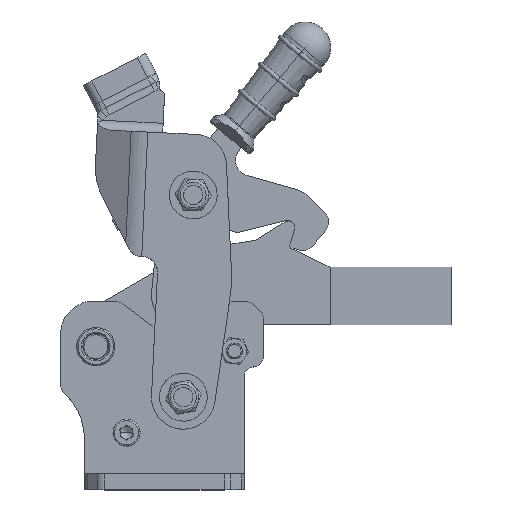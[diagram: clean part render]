
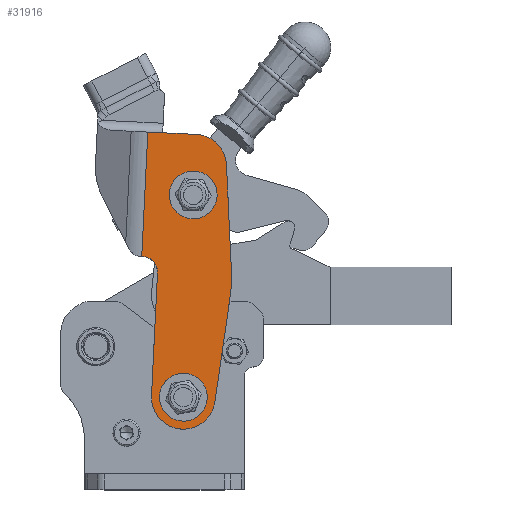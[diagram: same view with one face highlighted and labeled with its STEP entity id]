
A CAD part, top view. The second image highlights one B-rep face of the part: STEP entity #31916.
In plain terms, the highlighted planar face has unit normal (0, 0, 1) as drawn and (0, 0, -1) by its records, which use the part's own axes.
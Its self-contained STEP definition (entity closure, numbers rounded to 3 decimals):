
#133 = LINE ( 'NONE', #20008, #29977 ) ;
#334 = ORIENTED_EDGE ( 'NONE', *, *, #49213, .F. ) ;
#875 = AXIS2_PLACEMENT_3D ( 'NONE', #28266, #35490, #15289 ) ;
#1294 = CIRCLE ( 'NONE', #30941, 10. ) ;
#1332 = CARTESIAN_POINT ( 'NONE',  ( 0., 82.5, -17. ) ) ;
#1557 = AXIS2_PLACEMENT_3D ( 'NONE', #32900, #32361, #40109 ) ;
#1812 = VECTOR ( 'NONE', #11949, 1000. ) ;
#2169 = DIRECTION ( 'NONE',  ( 1., 0., 0. ) ) ;
#2607 = DIRECTION ( 'NONE',  ( 1., 0., 0. ) ) ;
#3772 = VERTEX_POINT ( 'NONE', #33821 ) ;
#3990 = CIRCLE ( 'NONE', #5705, 7.5 ) ;
#4070 = AXIS2_PLACEMENT_3D ( 'NONE', #18224, #35237, #31234 ) ;
#5705 = AXIS2_PLACEMENT_3D ( 'NONE', #49151, #33152, #50202 ) ;
#5707 = DIRECTION ( 'NONE',  ( 0., 0., 1. ) ) ;
#6650 = DIRECTION ( 'NONE',  ( 0., 0., 1. ) ) ;
#7179 = CIRCLE ( 'NONE', #48777, 5. ) ;
#7827 = VERTEX_POINT ( 'NONE', #52256 ) ;
#8336 = CARTESIAN_POINT ( 'NONE',  ( -9.955, 73.449, -17. ) ) ;
#9277 = EDGE_LOOP ( 'NONE', ( #334, #33929, #22802, #47073, #9494, #51193, #34812, #43127, #15351, #40280 ) ) ;
#9494 = ORIENTED_EDGE ( 'NONE', *, *, #44206, .F. ) ;
#9507 = EDGE_CURVE ( 'NONE', #17786, #22500, #37714, .T. ) ;
#9510 = DIRECTION ( 'NONE',  ( 0., 0., 1. ) ) ;
#10356 = LINE ( 'NONE', #25731, #21671 ) ;
#11949 = DIRECTION ( 'NONE',  ( -1., 0., 0. ) ) ;
#12207 = AXIS2_PLACEMENT_3D ( 'NONE', #41833, #30374, #37847 ) ;
#12274 = LINE ( 'NONE', #49926, #51228 ) ;
#12588 = DIRECTION ( 'NONE',  ( 1., 0., 0. ) ) ;
#13285 = DIRECTION ( 'NONE',  ( -0.095, -0.995, 0. ) ) ;
#14046 = CARTESIAN_POINT ( 'NONE',  ( -13.138, 32.455, -17. ) ) ;
#14195 = VERTEX_POINT ( 'NONE', #39295 ) ;
#15094 = CARTESIAN_POINT ( 'NONE',  ( 18., 43.5, -17. ) ) ;
#15289 = DIRECTION ( 'NONE',  ( 1., 0., 0. ) ) ;
#15351 = ORIENTED_EDGE ( 'NONE', *, *, #41488, .T. ) ;
#15907 = CIRCLE ( 'NONE', #4070, 10. ) ;
#16271 = EDGE_CURVE ( 'NONE', #43595, #52467, #24027, .T. ) ;
#17786 = VERTEX_POINT ( 'NONE', #47794 ) ;
#18224 = CARTESIAN_POINT ( 'NONE',  ( 0., 72.5, -17. ) ) ;
#18275 = EDGE_CURVE ( 'NONE', #22500, #44816, #10356, .T. ) ;
#20008 = CARTESIAN_POINT ( 'NONE',  ( 10., 0., -17. ) ) ;
#20197 = CARTESIAN_POINT ( 'NONE',  ( -9.955, 73.449, -17. ) ) ;
#20441 = ORIENTED_EDGE ( 'NONE', *, *, #37545, .T. ) ;
#21345 = DIRECTION ( 'NONE',  ( 1., 0., 0. ) ) ;
#21671 = VECTOR ( 'NONE', #51044, 1000. ) ;
#22271 = DIRECTION ( 'NONE',  ( 0., 0., 1. ) ) ;
#22309 = FACE_BOUND ( 'NONE', #42197, .T. ) ;
#22500 = VERTEX_POINT ( 'NONE', #45639 ) ;
#22802 = ORIENTED_EDGE ( 'NONE', *, *, #16271, .F. ) ;
#23751 = CIRCLE ( 'NONE', #875, 7.5 ) ;
#24027 = CIRCLE ( 'NONE', #12207, 40. ) ;
#24218 = CARTESIAN_POINT ( 'NONE',  ( -7.5, 0., -17. ) ) ;
#25401 = AXIS2_PLACEMENT_3D ( 'NONE', #30499, #22271, #46779 ) ;
#25682 = EDGE_CURVE ( 'NONE', #29902, #46787, #45803, .T. ) ;
#25731 = CARTESIAN_POINT ( 'NONE',  ( 15.179, 0., -17. ) ) ;
#26129 = EDGE_CURVE ( 'NONE', #46787, #29902, #23751, .T. ) ;
#26642 = EDGE_LOOP ( 'NONE', ( #35135, #50276 ) ) ;
#27269 = VERTEX_POINT ( 'NONE', #8336 ) ;
#28075 = CARTESIAN_POINT ( 'NONE',  ( 0., 0., -17. ) ) ;
#28212 = DIRECTION ( 'NONE',  ( 0., 1., 0. ) ) ;
#28266 = CARTESIAN_POINT ( 'NONE',  ( 0., 63.5, -17. ) ) ;
#29183 = LINE ( 'NONE', #20197, #32620 ) ;
#29601 = EDGE_CURVE ( 'NONE', #44816, #7827, #40086, .T. ) ;
#29677 = CARTESIAN_POINT ( 'NONE',  ( 15., 38.5, -17. ) ) ;
#29902 = VERTEX_POINT ( 'NONE', #41329 ) ;
#29977 = VECTOR ( 'NONE', #28212, 1000. ) ;
#30374 = DIRECTION ( 'NONE',  ( 0., 0., 1. ) ) ;
#30499 = CARTESIAN_POINT ( 'NONE',  ( 0., 63.5, -17. ) ) ;
#30941 = AXIS2_PLACEMENT_3D ( 'NONE', #28075, #5707, #21345 ) ;
#31234 = DIRECTION ( 'NONE',  ( 1., 0., 0. ) ) ;
#31916 = ADVANCED_FACE ( 'NONE', ( #47331, #43077, #22309 ), #34548, .F. ) ;
#32361 = DIRECTION ( 'NONE',  ( 0., 0., 1. ) ) ;
#32620 = VECTOR ( 'NONE', #13285, 1000. ) ;
#32900 = CARTESIAN_POINT ( 'NONE',  ( 0., 0., -17. ) ) ;
#32905 = CIRCLE ( 'NONE', #1557, 7.5 ) ;
#33152 = DIRECTION ( 'NONE',  ( 0., 0., 1. ) ) ;
#33821 = CARTESIAN_POINT ( 'NONE',  ( 10., 0., -17. ) ) ;
#33854 = CARTESIAN_POINT ( 'NONE',  ( -13.138, 40.045, -17. ) ) ;
#33929 = ORIENTED_EDGE ( 'NONE', *, *, #40055, .F. ) ;
#34548 = PLANE ( 'NONE',  #46129 ) ;
#34812 = ORIENTED_EDGE ( 'NONE', *, *, #18275, .T. ) ;
#35135 = ORIENTED_EDGE ( 'NONE', *, *, #25682, .T. ) ;
#35194 = CARTESIAN_POINT ( 'NONE',  ( 10., 38.5, -17. ) ) ;
#35237 = DIRECTION ( 'NONE',  ( 0., 0., 1. ) ) ;
#35490 = DIRECTION ( 'NONE',  ( 0., 0., 1. ) ) ;
#36798 = EDGE_CURVE ( 'NONE', #47592, #42709, #3990, .T. ) ;
#37545 = EDGE_CURVE ( 'NONE', #42709, #47592, #32905, .T. ) ;
#37714 = LINE ( 'NONE', #1332, #38923 ) ;
#37847 = DIRECTION ( 'NONE',  ( 1., 0., 0. ) ) ;
#38565 = CARTESIAN_POINT ( 'NONE',  ( 7.5, 0., -17. ) ) ;
#38923 = VECTOR ( 'NONE', #12588, 1000. ) ;
#39295 = CARTESIAN_POINT ( 'NONE',  ( -9.955, -0.949, -17. ) ) ;
#40055 = EDGE_CURVE ( 'NONE', #52467, #14195, #12274, .T. ) ;
#40086 = LINE ( 'NONE', #15094, #1812 ) ;
#40109 = DIRECTION ( 'NONE',  ( 1., 0., 0. ) ) ;
#40280 = ORIENTED_EDGE ( 'NONE', *, *, #44513, .F. ) ;
#41329 = CARTESIAN_POINT ( 'NONE',  ( -7.5, 63.5, -17. ) ) ;
#41488 = EDGE_CURVE ( 'NONE', #7827, #50004, #7179, .T. ) ;
#41833 = CARTESIAN_POINT ( 'NONE',  ( 26.681, 36.25, -17. ) ) ;
#42197 = EDGE_LOOP ( 'NONE', ( #50068, #20441 ) ) ;
#42543 = CARTESIAN_POINT ( 'NONE',  ( 0., 0., -17. ) ) ;
#42709 = VERTEX_POINT ( 'NONE', #38565 ) ;
#43077 = FACE_OUTER_BOUND ( 'NONE', #9277, .T. ) ;
#43127 = ORIENTED_EDGE ( 'NONE', *, *, #29601, .T. ) ;
#43595 = VERTEX_POINT ( 'NONE', #33854 ) ;
#44206 = EDGE_CURVE ( 'NONE', #17786, #27269, #15907, .T. ) ;
#44513 = EDGE_CURVE ( 'NONE', #3772, #50004, #133, .T. ) ;
#44686 = DIRECTION ( 'NONE',  ( 0.095, -0.995, 0. ) ) ;
#44816 = VERTEX_POINT ( 'NONE', #51525 ) ;
#45639 = CARTESIAN_POINT ( 'NONE',  ( 15.179, 82.5, -17. ) ) ;
#45803 = CIRCLE ( 'NONE', #25401, 7.5 ) ;
#46129 = AXIS2_PLACEMENT_3D ( 'NONE', #42543, #6650, #2169 ) ;
#46779 = DIRECTION ( 'NONE',  ( 1., 0., 0. ) ) ;
#46787 = VERTEX_POINT ( 'NONE', #47928 ) ;
#47073 = ORIENTED_EDGE ( 'NONE', *, *, #48797, .F. ) ;
#47331 = FACE_BOUND ( 'NONE', #26642, .T. ) ;
#47592 = VERTEX_POINT ( 'NONE', #24218 ) ;
#47794 = CARTESIAN_POINT ( 'NONE',  ( 0., 82.5, -17. ) ) ;
#47928 = CARTESIAN_POINT ( 'NONE',  ( 7.5, 63.5, -17. ) ) ;
#48777 = AXIS2_PLACEMENT_3D ( 'NONE', #29677, #9510, #2607 ) ;
#48797 = EDGE_CURVE ( 'NONE', #27269, #43595, #29183, .T. ) ;
#49151 = CARTESIAN_POINT ( 'NONE',  ( 0., 0., -17. ) ) ;
#49213 = EDGE_CURVE ( 'NONE', #14195, #3772, #1294, .T. ) ;
#49926 = CARTESIAN_POINT ( 'NONE',  ( -13.138, 32.455, -17. ) ) ;
#50004 = VERTEX_POINT ( 'NONE', #35194 ) ;
#50068 = ORIENTED_EDGE ( 'NONE', *, *, #36798, .T. ) ;
#50202 = DIRECTION ( 'NONE',  ( 1., 0., 0. ) ) ;
#50276 = ORIENTED_EDGE ( 'NONE', *, *, #26129, .T. ) ;
#51044 = DIRECTION ( 'NONE',  ( 0., -1., 0. ) ) ;
#51193 = ORIENTED_EDGE ( 'NONE', *, *, #9507, .T. ) ;
#51228 = VECTOR ( 'NONE', #44686, 1000. ) ;
#51525 = CARTESIAN_POINT ( 'NONE',  ( 15.179, 43.5, -17. ) ) ;
#52256 = CARTESIAN_POINT ( 'NONE',  ( 15., 43.5, -17. ) ) ;
#52467 = VERTEX_POINT ( 'NONE', #14046 ) ;
